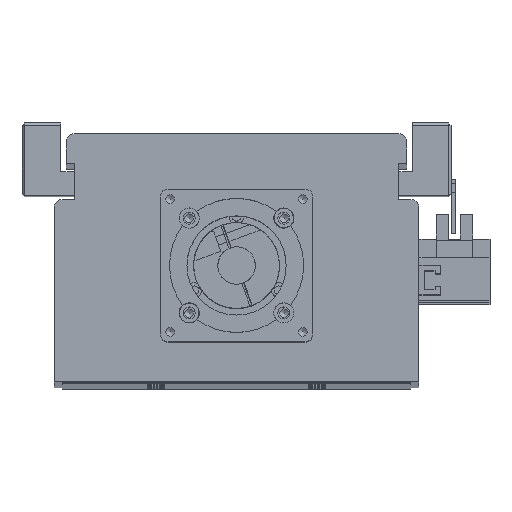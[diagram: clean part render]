
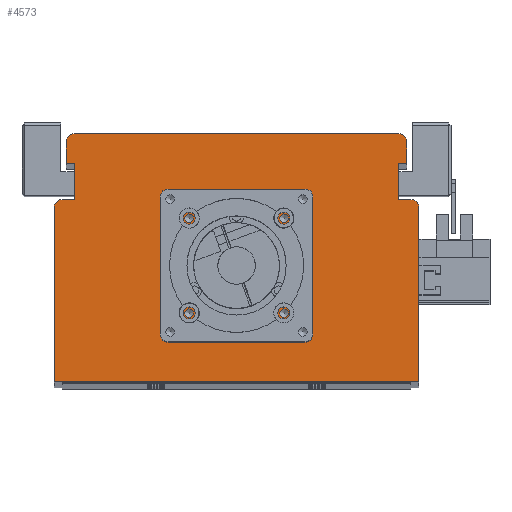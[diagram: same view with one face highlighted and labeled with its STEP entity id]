
A CAD part, top view. The second image highlights one B-rep face of the part: STEP entity #4573.
In plain terms, the highlighted planar face has unit normal (0, 0, 1).
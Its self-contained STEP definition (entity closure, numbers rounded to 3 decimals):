
#3131=CARTESIAN_POINT('',(19.321,61.5,1245.0));
#3132=VERTEX_POINT('',#3131);
#3133=CARTESIAN_POINT('',(17.7,61.5,1245.0));
#3134=DIRECTION('',(0.0,0.0,-1.0));
#3135=DIRECTION('',(1.0,0.0,0.0));
#3136=AXIS2_PLACEMENT_3D('',#3133,#3134,#3135);
#3137=CIRCLE('',#3136,1.621);
#3138=EDGE_CURVE('',#3132,#3132,#3137,.T.);
#3210=CARTESIAN_POINT('',(19.321,26.1,1245.0));
#3211=VERTEX_POINT('',#3210);
#3212=CARTESIAN_POINT('',(17.7,26.1,1245.0));
#3213=DIRECTION('',(0.0,0.0,-1.0));
#3214=DIRECTION('',(1.0,0.0,0.0));
#3215=AXIS2_PLACEMENT_3D('',#3212,#3213,#3214);
#3216=CIRCLE('',#3215,1.621);
#3217=EDGE_CURVE('',#3211,#3211,#3216,.T.);
#3289=CARTESIAN_POINT('',(-16.079,26.1,1245.0));
#3290=VERTEX_POINT('',#3289);
#3291=CARTESIAN_POINT('',(-17.7,26.1,1245.0));
#3292=DIRECTION('',(0.0,0.0,-1.0));
#3293=DIRECTION('',(1.0,0.0,0.0));
#3294=AXIS2_PLACEMENT_3D('',#3291,#3292,#3293);
#3295=CIRCLE('',#3294,1.621);
#3296=EDGE_CURVE('',#3290,#3290,#3295,.T.);
#3368=CARTESIAN_POINT('',(-16.079,61.5,1245.0));
#3369=VERTEX_POINT('',#3368);
#3370=CARTESIAN_POINT('',(-17.7,61.5,1245.0));
#3371=DIRECTION('',(0.0,0.0,-1.0));
#3372=DIRECTION('',(1.0,0.0,0.0));
#3373=AXIS2_PLACEMENT_3D('',#3370,#3371,#3372);
#3374=CIRCLE('',#3373,1.621);
#3375=EDGE_CURVE('',#3369,#3369,#3374,.T.);
#3409=CARTESIAN_POINT('',(26.5,43.8,1245.0));
#3410=VERTEX_POINT('',#3409);
#3411=CARTESIAN_POINT('',(24.5,43.8,1245.0));
#3412=DIRECTION('',(0.0,0.0,-1.0));
#3413=DIRECTION('',(1.0,0.0,0.0));
#3414=AXIS2_PLACEMENT_3D('',#3411,#3412,#3413);
#3415=CIRCLE('',#3414,2.0);
#3416=EDGE_CURVE('',#3410,#3410,#3415,.T.);
#3458=CARTESIAN_POINT('',(-22.5,43.8,1245.0));
#3459=VERTEX_POINT('',#3458);
#3460=CARTESIAN_POINT('',(-24.5,43.8,1245.0));
#3461=DIRECTION('',(0.0,0.0,-1.0));
#3462=DIRECTION('',(1.0,0.0,0.0));
#3463=AXIS2_PLACEMENT_3D('',#3460,#3461,#3462);
#3464=CIRCLE('',#3463,2.0);
#3465=EDGE_CURVE('',#3459,#3459,#3464,.T.);
#4389=CARTESIAN_POINT('',(21.05,43.8,1245.0));
#4390=VERTEX_POINT('',#4389);
#4391=CARTESIAN_POINT('',(0.0,43.8,1245.0));
#4392=DIRECTION('',(0.0,0.0,-1.0));
#4393=DIRECTION('',(-1.0,0.0,0.0));
#4394=AXIS2_PLACEMENT_3D('',#4391,#4392,#4393);
#4395=CIRCLE('',#4394,21.05);
#4396=EDGE_CURVE('',#4390,#4390,#4395,.T.);
#4413=CARTESIAN_POINT('',(0.,29.533,1245.0));
#4414=DIRECTION('',(0.0,0.0,1.0));
#4415=DIRECTION('',(1.0,0.0,0.0));
#4416=AXIS2_PLACEMENT_3D('',#4413,#4414,#4415);
#4417=PLANE('',#4416);
#4418=CARTESIAN_POINT('',(-65.,68.5,1245.0));
#4419=VERTEX_POINT('',#4418);
#4420=CARTESIAN_POINT('',(-60.5,68.5,1245.0));
#4421=VERTEX_POINT('',#4420);
#4422=CARTESIAN_POINT('',(-65.,68.5,1245.0));
#4423=DIRECTION('',(1.0,0.0,0.0));
#4424=VECTOR('',#4423,4.5);
#4425=LINE('',#4422,#4424);
#4426=EDGE_CURVE('',#4419,#4421,#4425,.T.);
#4427=ORIENTED_EDGE('',*,*,#4426,.F.);
#4428=CARTESIAN_POINT('',(-68.,65.5,1245.0));
#4429=VERTEX_POINT('',#4428);
#4430=CARTESIAN_POINT('',(-65.,65.5,1245.0));
#4431=DIRECTION('',(0.0,0.0,-1.0));
#4432=DIRECTION('',(0.0,1.0,0.0));
#4433=AXIS2_PLACEMENT_3D('',#4430,#4431,#4432);
#4434=CIRCLE('',#4433,3.);
#4435=EDGE_CURVE('',#4429,#4419,#4434,.T.);
#4436=ORIENTED_EDGE('',*,*,#4435,.F.);
#4437=CARTESIAN_POINT('',(-68.0,0.5,1245.0));
#4438=VERTEX_POINT('',#4437);
#4439=CARTESIAN_POINT('',(-68.0,0.5,1245.0));
#4440=DIRECTION('',(0.0,1.0,0.0));
#4441=VECTOR('',#4440,65.0);
#4442=LINE('',#4439,#4441);
#4443=EDGE_CURVE('',#4438,#4429,#4442,.T.);
#4444=ORIENTED_EDGE('',*,*,#4443,.F.);
#4445=CARTESIAN_POINT('',(68.0,0.5,1245.0));
#4446=VERTEX_POINT('',#4445);
#4447=CARTESIAN_POINT('',(68.0,0.5,1245.0));
#4448=DIRECTION('',(-1.0,0.0,0.0));
#4449=VECTOR('',#4448,136.0);
#4450=LINE('',#4447,#4449);
#4451=EDGE_CURVE('',#4446,#4438,#4450,.T.);
#4452=ORIENTED_EDGE('',*,*,#4451,.F.);
#4453=CARTESIAN_POINT('',(68.0,65.5,1245.0));
#4454=VERTEX_POINT('',#4453);
#4455=CARTESIAN_POINT('',(68.0,65.5,1245.0));
#4456=DIRECTION('',(0.0,-1.0,0.0));
#4457=VECTOR('',#4456,65.0);
#4458=LINE('',#4455,#4457);
#4459=EDGE_CURVE('',#4454,#4446,#4458,.T.);
#4460=ORIENTED_EDGE('',*,*,#4459,.F.);
#4461=CARTESIAN_POINT('',(65.,68.5,1245.0));
#4462=VERTEX_POINT('',#4461);
#4463=CARTESIAN_POINT('',(65.,65.5,1245.0));
#4464=DIRECTION('',(0.0,0.0,-1.0));
#4465=DIRECTION('',(1.0,0.0,0.0));
#4466=AXIS2_PLACEMENT_3D('',#4463,#4464,#4465);
#4467=CIRCLE('',#4466,3.);
#4468=EDGE_CURVE('',#4462,#4454,#4467,.T.);
#4469=ORIENTED_EDGE('',*,*,#4468,.F.);
#4470=CARTESIAN_POINT('',(60.5,68.5,1245.0));
#4471=VERTEX_POINT('',#4470);
#4472=CARTESIAN_POINT('',(60.5,68.5,1245.0));
#4473=DIRECTION('',(1.0,0.0,0.0));
#4474=VECTOR('',#4473,4.5);
#4475=LINE('',#4472,#4474);
#4476=EDGE_CURVE('',#4471,#4462,#4475,.T.);
#4477=ORIENTED_EDGE('',*,*,#4476,.F.);
#4478=CARTESIAN_POINT('',(60.5,82.,1245.0));
#4479=VERTEX_POINT('',#4478);
#4480=CARTESIAN_POINT('',(60.5,82.,1245.0));
#4481=DIRECTION('',(0.0,-1.0,0.0));
#4482=VECTOR('',#4481,13.5);
#4483=LINE('',#4480,#4482);
#4484=EDGE_CURVE('',#4479,#4471,#4483,.T.);
#4485=ORIENTED_EDGE('',*,*,#4484,.F.);
#4486=CARTESIAN_POINT('',(63.5,82.,1245.0));
#4487=VERTEX_POINT('',#4486);
#4488=CARTESIAN_POINT('',(63.5,82.,1245.0));
#4489=DIRECTION('',(-1.0,0.0,0.0));
#4490=VECTOR('',#4489,3.0);
#4491=LINE('',#4488,#4490);
#4492=EDGE_CURVE('',#4487,#4479,#4491,.T.);
#4493=ORIENTED_EDGE('',*,*,#4492,.F.);
#4494=CARTESIAN_POINT('',(63.5,90.0,1245.0));
#4495=VERTEX_POINT('',#4494);
#4496=CARTESIAN_POINT('',(63.5,90.0,1245.0));
#4497=DIRECTION('',(0.0,-1.0,0.0));
#4498=VECTOR('',#4497,8.);
#4499=LINE('',#4496,#4498);
#4500=EDGE_CURVE('',#4495,#4487,#4499,.T.);
#4501=ORIENTED_EDGE('',*,*,#4500,.F.);
#4502=CARTESIAN_POINT('',(60.5,93.,1245.0));
#4503=VERTEX_POINT('',#4502);
#4504=CARTESIAN_POINT('',(60.5,90.0,1245.0));
#4505=DIRECTION('',(0.0,0.0,-1.0));
#4506=DIRECTION('',(1.0,0.0,0.0));
#4507=AXIS2_PLACEMENT_3D('',#4504,#4505,#4506);
#4508=CIRCLE('',#4507,3.);
#4509=EDGE_CURVE('',#4503,#4495,#4508,.T.);
#4510=ORIENTED_EDGE('',*,*,#4509,.F.);
#4511=CARTESIAN_POINT('',(-60.5,93.0,1245.0));
#4512=VERTEX_POINT('',#4511);
#4513=CARTESIAN_POINT('',(-60.5,93.0,1245.0));
#4514=DIRECTION('',(1.0,0.0,0.0));
#4515=VECTOR('',#4514,121.0);
#4516=LINE('',#4513,#4515);
#4517=EDGE_CURVE('',#4512,#4503,#4516,.T.);
#4518=ORIENTED_EDGE('',*,*,#4517,.F.);
#4519=CARTESIAN_POINT('',(-63.5,90.0,1245.0));
#4520=VERTEX_POINT('',#4519);
#4521=CARTESIAN_POINT('',(-60.5,90.0,1245.0));
#4522=DIRECTION('',(0.0,0.0,-1.0));
#4523=DIRECTION('',(0.0,1.0,0.0));
#4524=AXIS2_PLACEMENT_3D('',#4521,#4522,#4523);
#4525=CIRCLE('',#4524,3.);
#4526=EDGE_CURVE('',#4520,#4512,#4525,.T.);
#4527=ORIENTED_EDGE('',*,*,#4526,.F.);
#4528=CARTESIAN_POINT('',(-63.5,82.,1245.0));
#4529=VERTEX_POINT('',#4528);
#4530=CARTESIAN_POINT('',(-63.5,82.,1245.0));
#4531=DIRECTION('',(0.0,1.0,0.0));
#4532=VECTOR('',#4531,8.);
#4533=LINE('',#4530,#4532);
#4534=EDGE_CURVE('',#4529,#4520,#4533,.T.);
#4535=ORIENTED_EDGE('',*,*,#4534,.F.);
#4536=CARTESIAN_POINT('',(-60.5,82.,1245.0));
#4537=VERTEX_POINT('',#4536);
#4538=CARTESIAN_POINT('',(-60.5,82.,1245.0));
#4539=DIRECTION('',(-1.0,0.0,0.0));
#4540=VECTOR('',#4539,3.);
#4541=LINE('',#4538,#4540);
#4542=EDGE_CURVE('',#4537,#4529,#4541,.T.);
#4543=ORIENTED_EDGE('',*,*,#4542,.F.);
#4544=CARTESIAN_POINT('',(-60.5,68.5,1245.0));
#4545=DIRECTION('',(0.0,1.0,0.0));
#4546=VECTOR('',#4545,13.5);
#4547=LINE('',#4544,#4546);
#4548=EDGE_CURVE('',#4421,#4537,#4547,.T.);
#4549=ORIENTED_EDGE('',*,*,#4548,.F.);
#4550=EDGE_LOOP('',(#4427,#4436,#4444,#4452,#4460,#4469,#4477,#4485,#4493,#4501,#4510,#4518,#4527,#4535,#4543,#4549));
#4551=FACE_OUTER_BOUND('',#4550,.T.);
#4552=ORIENTED_EDGE('',*,*,#3138,.T.);
#4553=EDGE_LOOP('',(#4552));
#4554=FACE_BOUND('',#4553,.T.);
#4555=ORIENTED_EDGE('',*,*,#3217,.T.);
#4556=EDGE_LOOP('',(#4555));
#4557=FACE_BOUND('',#4556,.T.);
#4558=ORIENTED_EDGE('',*,*,#3296,.T.);
#4559=EDGE_LOOP('',(#4558));
#4560=FACE_BOUND('',#4559,.T.);
#4561=ORIENTED_EDGE('',*,*,#3375,.T.);
#4562=EDGE_LOOP('',(#4561));
#4563=FACE_BOUND('',#4562,.T.);
#4564=ORIENTED_EDGE('',*,*,#3416,.T.);
#4565=EDGE_LOOP('',(#4564));
#4566=FACE_BOUND('',#4565,.T.);
#4567=ORIENTED_EDGE('',*,*,#3465,.T.);
#4568=EDGE_LOOP('',(#4567));
#4569=FACE_BOUND('',#4568,.T.);
#4570=ORIENTED_EDGE('',*,*,#4396,.T.);
#4571=EDGE_LOOP('',(#4570));
#4572=FACE_BOUND('',#4571,.T.);
#4573=ADVANCED_FACE('',(#4551,#4554,#4557,#4560,#4563,#4566,#4569,#4572),#4417,.T.);
